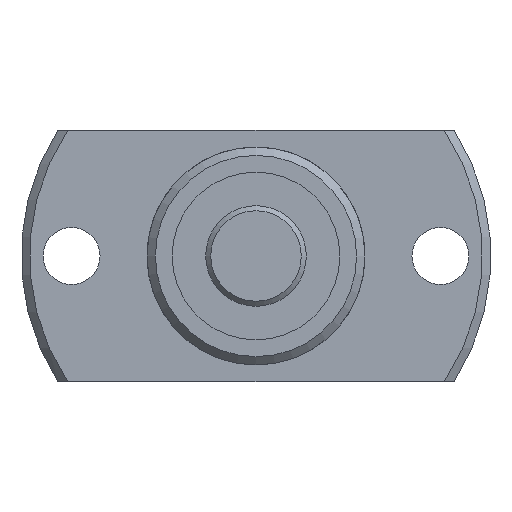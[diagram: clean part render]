
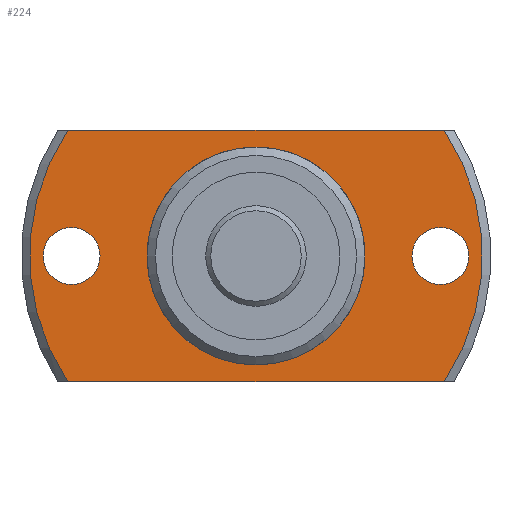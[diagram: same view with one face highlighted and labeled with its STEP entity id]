
A CAD part, left-side view. The second image highlights one B-rep face of the part: STEP entity #224.
In plain terms, the highlighted planar face has unit normal (-1, 0, 0).
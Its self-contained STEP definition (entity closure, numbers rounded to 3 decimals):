
#224 = ADVANCED_FACE( '', ( #378, #379, #380, #381 ), #382, .F. );
#378 = FACE_OUTER_BOUND( '', #556, .T. );
#379 = FACE_BOUND( '', #557, .T. );
#380 = FACE_BOUND( '', #558, .T. );
#381 = FACE_BOUND( '', #559, .T. );
#382 = PLANE( '', #560 );
#556 = EDGE_LOOP( '', ( #982, #983, #984, #985 ) );
#557 = EDGE_LOOP( '', ( #986 ) );
#558 = EDGE_LOOP( '', ( #987 ) );
#559 = EDGE_LOOP( '', ( #988 ) );
#560 = AXIS2_PLACEMENT_3D( '', #989, #990, #991 );
#982 = ORIENTED_EDGE( '', *, *, #1128, .F. );
#983 = ORIENTED_EDGE( '', *, *, #1227, .T. );
#984 = ORIENTED_EDGE( '', *, *, #1221, .F. );
#985 = ORIENTED_EDGE( '', *, *, #1122, .T. );
#986 = ORIENTED_EDGE( '', *, *, #1228, .T. );
#987 = ORIENTED_EDGE( '', *, *, #1229, .T. );
#988 = ORIENTED_EDGE( '', *, *, #1223, .T. );
#989 = CARTESIAN_POINT( '', ( 13., 6.3, 0. ) );
#990 = DIRECTION( '', ( 1., 0., 0. ) );
#991 = DIRECTION( '', ( 0., 0., -1. ) );
#1122 = EDGE_CURVE( '', #1288, #1286, #1289, .T. );
#1128 = EDGE_CURVE( '', #1299, #1286, #1300, .T. );
#1221 = EDGE_CURVE( '', #1288, #1461, #1462, .T. );
#1223 = EDGE_CURVE( '', #1464, #1464, #1465, .T. );
#1227 = EDGE_CURVE( '', #1299, #1461, #1469, .T. );
#1228 = EDGE_CURVE( '', #1470, #1470, #1471, .T. );
#1229 = EDGE_CURVE( '', #1472, #1472, #1473, .T. );
#1286 = VERTEX_POINT( '', #1543 );
#1288 = VERTEX_POINT( '', #1548 );
#1289 = LINE( '', #1549, #1550 );
#1299 = VERTEX_POINT( '', #1571 );
#1300 = CIRCLE( '', #1572, 13.5 );
#1461 = VERTEX_POINT( '', #1832 );
#1462 = CIRCLE( '', #1833, 13.5 );
#1464 = VERTEX_POINT( '', #1838 );
#1465 = CIRCLE( '', #1839, 6.3 );
#1469 = LINE( '', #1843, #1844 );
#1470 = VERTEX_POINT( '', #1845 );
#1471 = CIRCLE( '', #1846, 1.7 );
#1472 = VERTEX_POINT( '', #1847 );
#1473 = CIRCLE( '', #1848, 1.7 );
#1543 = CARTESIAN_POINT( '', ( 13., 11.225, 7.5 ) );
#1548 = CARTESIAN_POINT( '', ( 13., -11.225, 7.5 ) );
#1549 = CARTESIAN_POINT( '', ( 13., 6.3, 7.5 ) );
#1550 = VECTOR( '', #1924, 1000. );
#1571 = CARTESIAN_POINT( '', ( 13., 11.225, -7.5 ) );
#1572 = AXIS2_PLACEMENT_3D( '', #1927, #1928, #1929 );
#1832 = CARTESIAN_POINT( '', ( 13., -11.225, -7.5 ) );
#1833 = AXIS2_PLACEMENT_3D( '', #2087, #2088, #2089 );
#1838 = CARTESIAN_POINT( '', ( 13., 0., -6.3 ) );
#1839 = AXIS2_PLACEMENT_3D( '', #2090, #2091, #2092 );
#1843 = CARTESIAN_POINT( '', ( 13., 6.3, -7.5 ) );
#1844 = VECTOR( '', #2102, 1000. );
#1845 = CARTESIAN_POINT( '', ( 13., 11., -1.7 ) );
#1846 = AXIS2_PLACEMENT_3D( '', #2103, #2104, #2105 );
#1847 = CARTESIAN_POINT( '', ( 13., -11., -1.7 ) );
#1848 = AXIS2_PLACEMENT_3D( '', #2106, #2107, #2108 );
#1924 = DIRECTION( '', ( 0., 1., 0. ) );
#1927 = CARTESIAN_POINT( '', ( 13., 0., 0. ) );
#1928 = DIRECTION( '', ( 1., 0., 0. ) );
#1929 = DIRECTION( '', ( 0., 0., -1. ) );
#2087 = CARTESIAN_POINT( '', ( 13., 0., 0. ) );
#2088 = DIRECTION( '', ( 1., 0., 0. ) );
#2089 = DIRECTION( '', ( 0., 0., -1. ) );
#2090 = CARTESIAN_POINT( '', ( 13., 0., 0. ) );
#2091 = DIRECTION( '', ( 1., 0., 0. ) );
#2092 = DIRECTION( '', ( 0., 0., -1. ) );
#2102 = DIRECTION( '', ( 0., -1., 0. ) );
#2103 = CARTESIAN_POINT( '', ( 13., 11., 0. ) );
#2104 = DIRECTION( '', ( 1., 0., 0. ) );
#2105 = DIRECTION( '', ( 0., 0., -1. ) );
#2106 = CARTESIAN_POINT( '', ( 13., -11., 0. ) );
#2107 = DIRECTION( '', ( 1., 0., 0. ) );
#2108 = DIRECTION( '', ( 0., 0., -1. ) );
